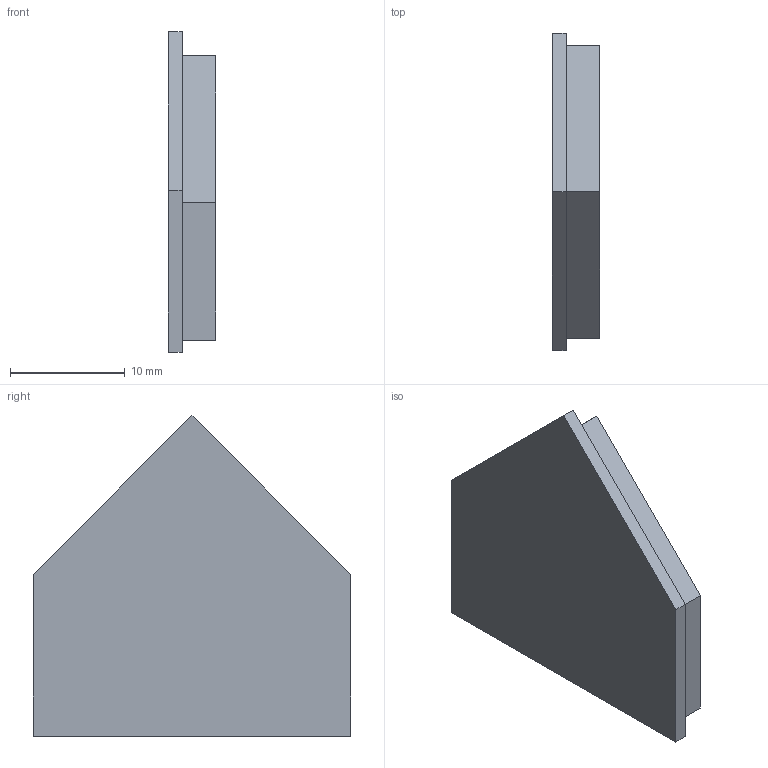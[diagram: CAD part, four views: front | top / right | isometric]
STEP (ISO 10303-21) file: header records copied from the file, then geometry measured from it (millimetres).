
FILE_DESCRIPTION(('Open CASCADE Model'),'2;1');
FILE_NAME('Open CASCADE Shape Model','2026-11-15T10:52:12',('Author'),( 'Open CASCADE'),'Open CASCADE STEP processor 7.8','Open CASCADE 7.8' ,'Unknown');
FILE_SCHEMA(('AUTOMOTIVE_DESIGN { 1 0 10303 214 1 1 1 1 }'));
Length unit declared in the file: millimetre
Products named in the file (1): Open CASCADE STEP translator 7.8 5
Bounding box: 4.1 x 27.6 x 27.9 mm (x, y, z)
Volume: 2054.4 mm3; surface area: 1521.1 mm2
Topology: 1 solids, 1 shells, 13 faces, 30 edges, 20 vertices
Faces by surface type: plane 13
Entity records: 764 total; most frequent: CARTESIAN_POINT 124, DIRECTION 118, LINE 90, VECTOR 90, ORIENTED_EDGE 60, PCURVE 60, DEFINITIONAL_REPRESENTATION 60, EDGE_CURVE 30
